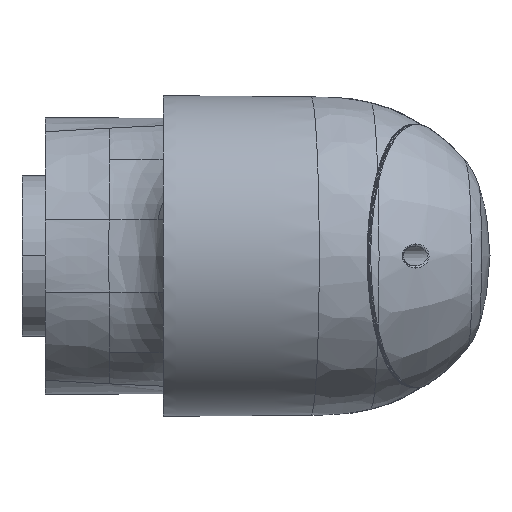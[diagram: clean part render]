
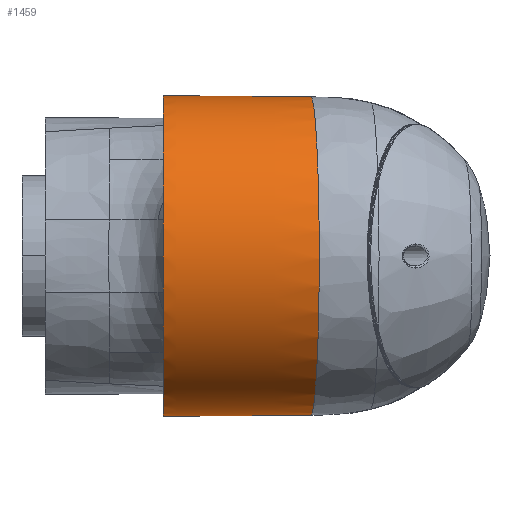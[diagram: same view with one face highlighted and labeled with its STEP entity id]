
A CAD part, front view. The second image highlights one B-rep face of the part: STEP entity #1459.
In plain terms, the highlighted toroidal (fillet/blend) face has major radius 36953.6 mm and minor radius 37034.2 mm.
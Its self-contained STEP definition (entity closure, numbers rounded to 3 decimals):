
#1459=ADVANCED_FACE('1300_MODEL-C003',(#2035),#9189,.F.);
#2035=FACE_OUTER_BOUND('',#8590,.T.);
#2611=B_SPLINE_CURVE_WITH_KNOTS('',3,(#9198,#9201,#9202,#9203,#9204,#9205,
#9206,#9207,#9208,#9209,#9210,#9211,#9212,#9213,#9214,#9215,#9216,#9217,
#9218,#9219,#9220,#9221,#9222,#9223,#9224,#9225,#9226,#9227,#9228,#9229,
#9200),.UNSPECIFIED.,.F.,.U.,(4,1,1,1,1,1,1,1,1,1,1,1,1,1,1,1,1,1,1,1,1,
1,1,1,1,1,1,1,4),(0.,0.063,0.094,0.125,0.141,0.156,0.172,0.188,
0.219,0.25,0.313,0.344,0.375,0.438,0.5,0.563,0.625,0.656,0.688,
0.75,0.781,0.813,0.828,0.844,0.859,0.875,0.906,0.938,1.),
 .UNSPECIFIED.);
#3118=ORIENTED_EDGE('',*,*,#5892,.T.);
#3119=ORIENTED_EDGE('',*,*,#5893,.T.);
#3120=ORIENTED_EDGE('',*,*,#5894,.T.);
#3121=ORIENTED_EDGE('',*,*,#5895,.F.);
#3122=ORIENTED_EDGE('',*,*,#5896,.F.);
#3123=ORIENTED_EDGE('',*,*,#5897,.T.);
#5892=EDGE_CURVE('1',#7754,#7755,#7279,.T.);
#5893=EDGE_CURVE('2',#7755,#7756,#7280,.T.);
#5894=EDGE_CURVE('3',#7756,#7757,#2611,.T.);
#5895=EDGE_CURVE('4',#7758,#7757,#7281,.T.);
#5896=EDGE_CURVE('5',#7759,#7758,#7282,.T.);
#5897=EDGE_CURVE('6',#7759,#7754,#7283,.T.);
#7279=CIRCLE('',#29099,37034.214);
#7280=CIRCLE('',#29100,37034.214);
#7281=CIRCLE('',#29101,37034.214);
#7282=CIRCLE('',#29102,37034.214);
#7283=CIRCLE('',#29103,80.009);
#7754=VERTEX_POINT('1',#9195);
#7755=VERTEX_POINT('2',#9196);
#7756=VERTEX_POINT('3',#9198);
#7757=VERTEX_POINT('4',#9200);
#7758=VERTEX_POINT('5',#9230);
#7759=VERTEX_POINT('6',#9232);
#8590=EDGE_LOOP('',(#3118,#3119,#3120,#3121,#3122,#3123));
#9189=DEGENERATE_TOROIDAL_SURFACE('',#29098,36953.565,37034.214,
 .F.);
#9194=CARTESIAN_POINT('',(-101.152,220.,0.));
#9195=CARTESIAN_POINT('',(116.5,220.,-80.009));
#9196=CARTESIAN_POINT('',(136.,220.,-79.889));
#9197=CARTESIAN_POINT('',(-101.152,220.,36953.566));
#9198=CARTESIAN_POINT('',(190.261,220.,-79.502));
#9199=CARTESIAN_POINT('',(-101.152,219.985,36953.565));
#9200=CARTESIAN_POINT('',(190.261,220.,79.502));
#9201=CARTESIAN_POINT('',(190.533,214.802,-79.5));
#9202=CARTESIAN_POINT('',(190.942,207.004,-78.729));
#9203=CARTESIAN_POINT('',(191.471,196.907,-76.197));
#9204=CARTESIAN_POINT('',(191.792,190.78,-74.005));
#9205=CARTESIAN_POINT('',(192.041,186.026,-71.897));
#9206=CARTESIAN_POINT('',(192.224,182.541,-70.143));
#9207=CARTESIAN_POINT('',(192.402,179.147,-68.22));
#9208=CARTESIAN_POINT('',(192.632,174.751,-65.437));
#9209=CARTESIAN_POINT('',(192.906,169.523,-61.56));
#9210=CARTESIAN_POINT('',(193.311,161.804,-54.566));
#9211=CARTESIAN_POINT('',(193.658,155.17,-46.485));
#9212=CARTESIAN_POINT('',(193.939,149.812,-37.548));
#9213=CARTESIAN_POINT('',(194.173,145.354,-28.128));
#9214=CARTESIAN_POINT('',(194.372,141.557,-15.617));
#9215=CARTESIAN_POINT('',(194.452,140.018,0.));
#9216=CARTESIAN_POINT('',(194.372,141.557,15.617));
#9217=CARTESIAN_POINT('',(194.173,145.354,28.128));
#9218=CARTESIAN_POINT('',(193.939,149.812,37.548));
#9219=CARTESIAN_POINT('',(193.658,155.17,46.485));
#9220=CARTESIAN_POINT('',(193.311,161.804,54.566));
#9221=CARTESIAN_POINT('',(192.906,169.523,61.56));
#9222=CARTESIAN_POINT('',(192.632,174.751,65.437));
#9223=CARTESIAN_POINT('',(192.402,179.147,68.22));
#9224=CARTESIAN_POINT('',(192.224,182.541,70.143));
#9225=CARTESIAN_POINT('',(192.041,186.026,71.897));
#9226=CARTESIAN_POINT('',(191.792,190.78,74.005));
#9227=CARTESIAN_POINT('',(191.471,196.907,76.197));
#9228=CARTESIAN_POINT('',(190.942,207.004,78.729));
#9229=CARTESIAN_POINT('',(190.533,214.802,79.5));
#9230=CARTESIAN_POINT('',(136.,220.,79.889));
#9231=CARTESIAN_POINT('',(-101.152,219.985,-36953.565));
#9232=CARTESIAN_POINT('',(116.5,220.,80.009));
#9233=CARTESIAN_POINT('',(-101.152,220.,-36953.566));
#9234=CARTESIAN_POINT('',(116.5,220.,0.));
#29098=AXIS2_PLACEMENT_3D('',#9194,#29961,#29962);
#29099=AXIS2_PLACEMENT_3D('',#9197,#29963,#29964);
#29100=AXIS2_PLACEMENT_3D('',#9199,#29965,#29966);
#29101=AXIS2_PLACEMENT_3D('',#9231,#29967,#29968);
#29102=AXIS2_PLACEMENT_3D('',#9233,#29969,#29970);
#29103=AXIS2_PLACEMENT_3D('',#9234,#29961,#29960);
#29960=DIRECTION('',(0.,0.,1.));
#29961=DIRECTION('',(1.,0.,0.));
#29962=DIRECTION('',(0.,-0.006,-1.));
#29963=DIRECTION('',(0.,-1.,0.));
#29964=DIRECTION('',(0.006,0.,-1.));
#29965=DIRECTION('',(0.,-1.,0.));
#29966=DIRECTION('',(0.006,0.,-1.));
#29967=DIRECTION('',(0.,1.,0.));
#29968=DIRECTION('',(0.006,0.,1.));
#29969=DIRECTION('',(0.,1.,0.));
#29970=DIRECTION('',(0.006,0.,1.));
